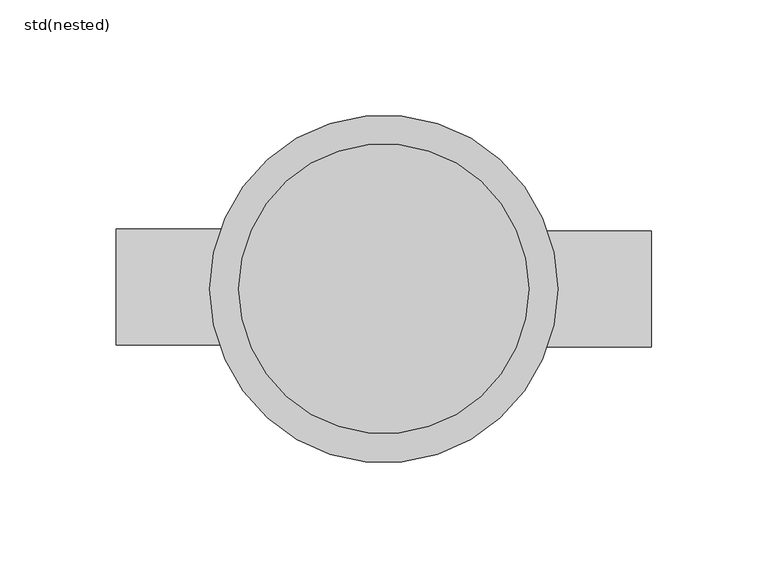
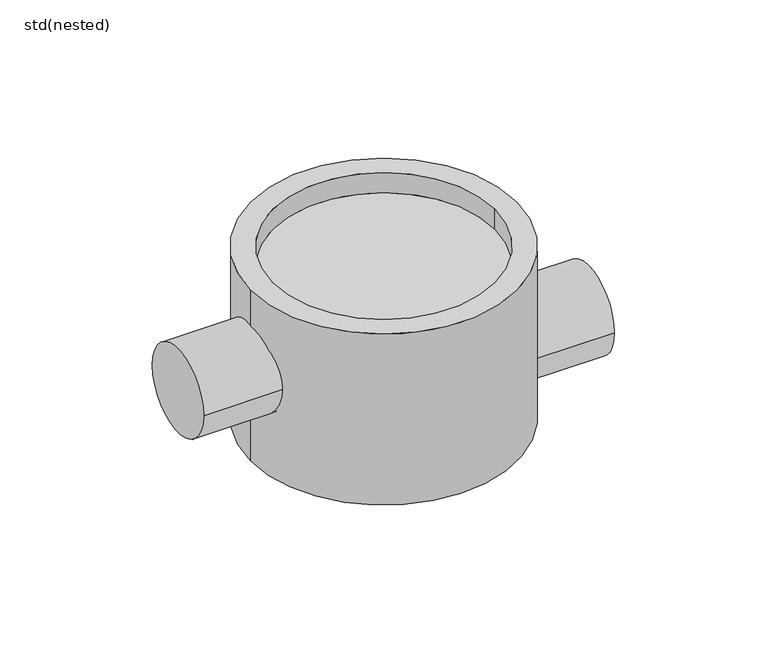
"""IFC4 building model written with IfcOpenShell, lengths in millimetres: pipe fitting geometry, ZZZ_do_not_use_PIF_UN_Gully bodies_With lateral inlet_ACO : std(nested)."""

import ifcopenshell
import ifcopenshell.guid

model = None  # the IFC model being written
_history = None  # IfcOwnerHistory: only IFC2X3 demands one
_inside = {}  # id of a spatial element -> (the spatial element, [elements in it])
_under = {}  # id of a project, library or spatial element -> (it, [spatial elements below it])
_declared = {}  # id of a project -> (the project, [libraries it declares])
_typed = {}  # id of a type object -> (the type object, [elements of that type])
_made_of = {}  # id of a material, layer set ... -> (it, [elements and type objects made of it])


def new_model(schema):
    """Start an empty IFC model of exactly this schema.

    Asked for "IFC4X3", IfcOpenShell would pick the latest addendum, in which some entities
    have other attributes; the version numbers below select the first issue.
    IFC2X3 requires an IfcOwnerHistory on every rooted entity: one is made here for all.
    """
    global model, _history
    if schema == "IFC4X3":
        model = ifcopenshell.file(schema_version=(4, 3, 0, 0))
    else:
        model = ifcopenshell.file(schema=schema)
    _inside.clear()
    _under.clear()
    _declared.clear()
    _typed.clear()
    _made_of.clear()
    _history = None
    if model.schema == "IFC2X3":
        org = make("IfcOrganization", Name="unknown")
        user = make(
            "IfcPersonAndOrganization",
            ThePerson=make("IfcPerson", FamilyName="unknown"),
            TheOrganization=org,
        )
        app = make(
            "IfcApplication",
            ApplicationDeveloper=org,
            Version="unknown",
            ApplicationFullName="unknown",
            ApplicationIdentifier="unknown",
        )
        _history = make(
            "IfcOwnerHistory",
            OwningUser=user,
            OwningApplication=app,
            ChangeAction="ADDED",
            CreationDate=0,
        )
    return model


def make(cls, **values):
    """One entity of the class cls with the attributes given. An attribute that is None is left unset."""
    return model.create_entity(
        cls, **{name: value for name, value in values.items() if value is not None}
    )


def rooted(cls, **values):
    """An entity with a GlobalId (a new one), such as an element, a storey or a relation."""
    return make(cls, GlobalId=ifcopenshell.guid.new(), OwnerHistory=_history, **values)


def si_unit(unit_type, name, prefix=None):
    """IfcSIUnit, for example si_unit("LENGTHUNIT", "METRE", prefix="MILLI")."""
    return make("IfcSIUnit", UnitType=unit_type, Prefix=prefix, Name=name)


def assignment(units):
    """IfcUnitAssignment: the units of a project."""
    return None if units is None else make("IfcUnitAssignment", Units=units)


def point(xyz):
    """IfcCartesianPoint."""
    return None if xyz is None else make("IfcCartesianPoint", Coordinates=xyz)


def direction(xyz):
    """IfcDirection."""
    return None if xyz is None else make("IfcDirection", DirectionRatios=xyz)


def frame(location, z_axis=None, x_axis=None):
    """IfcAxis2Placement3D, a coordinate frame: its origin and axes. An axis left out is left unset."""
    return make(
        "IfcAxis2Placement3D",
        Location=point(location),
        Axis=direction(z_axis),
        RefDirection=direction(x_axis),
    )


def frame_2d(location, x_axis=None):
    """IfcAxis2Placement2D, a coordinate frame in the plane: its origin and x axis."""
    return make(
        "IfcAxis2Placement2D", Location=point(location), RefDirection=direction(x_axis)
    )


def origin():
    """The frame at (0, 0, 0) with its axes left unset."""
    return frame((0.0, 0.0, 0.0))


def place(relative_to, where):
    """IfcLocalPlacement: puts the frame where relative to a parent placement (None: the world)."""
    return make(
        "IfcLocalPlacement", PlacementRelTo=relative_to, RelativePlacement=where
    )


def context(
    kind, dimensions, precision=None, world=None, true_north=None, identifier=None
):
    """IfcGeometricRepresentationContext, for example the 3D "Model" context."""
    return make(
        "IfcGeometricRepresentationContext",
        ContextIdentifier=identifier,
        ContextType=kind,
        CoordinateSpaceDimension=dimensions,
        Precision=precision,
        WorldCoordinateSystem=world,
        TrueNorth=true_north,
    )


def project(units=None, contexts=None):
    """IfcProject with its units and contexts."""
    return rooted(
        "IfcProject",
        Name="project",
        RepresentationContexts=contexts,
        UnitsInContext=assignment(units),
    )


def spatial(cls, under=None, at=None, **own):
    """A site, building, storey or space (cls), placed at a placement, below another one or the project."""
    s = rooted(cls, ObjectPlacement=at, **own)
    if under is not None:
        _under.setdefault(under.id(), (under, []))[1].append(s)
    return s


def polyline(points):
    """IfcPolyline through the points."""
    return make("IfcPolyline", Points=[point(p) for p in points])


def circle_curve(where, radius):
    """IfcCircle in the frame where."""
    return make("IfcCircle", Position=where, Radius=radius)


def trimmed(basis, trim1, trim2, sense, master):
    """IfcTrimmedCurve: the piece of a basis curve between two trims."""
    return make(
        "IfcTrimmedCurve",
        BasisCurve=basis,
        Trim1=trim1,
        Trim2=trim2,
        SenseAgreement=sense,
        MasterRepresentation=master,
    )


def segment(curve, same_sense, transition):
    """IfcCompositeCurveSegment."""
    return make(
        "IfcCompositeCurveSegment",
        Transition=transition,
        SameSense=same_sense,
        ParentCurve=curve,
    )


def composite_curve(segments, self_intersect=None):
    """IfcCompositeCurve: segments joined end to end."""
    return make("IfcCompositeCurve", Segments=segments, SelfIntersect=self_intersect)


def outline(outer, holes=None, kind="AREA"):
    """IfcArbitraryClosedProfileDef: a profile drawn as a closed curve; with holes, ...WithVoids."""
    if holes is None:
        return make("IfcArbitraryClosedProfileDef", ProfileType=kind, OuterCurve=outer)
    return make(
        "IfcArbitraryProfileDefWithVoids",
        ProfileType=kind,
        OuterCurve=outer,
        InnerCurves=holes,
    )


def extrude(swept, where, along, depth):
    """IfcExtrudedAreaSolid: the profile swept, set in the frame where, extruded along a direction by depth."""
    return make(
        "IfcExtrudedAreaSolid",
        SweptArea=swept,
        Position=where,
        ExtrudedDirection=direction(along),
        Depth=depth,
    )


def shape(context_of_items, identifier, shape_type, items):
    """IfcShapeRepresentation: the items that make up one representation, for example the "Body"."""
    return make(
        "IfcShapeRepresentation",
        ContextOfItems=context_of_items,
        RepresentationIdentifier=identifier,
        RepresentationType=shape_type,
        Items=items,
    )


def source(mapping_origin, context_of_items, identifier, shape_type, items):
    """IfcRepresentationMap: a shape defined once, which mapped items show again and again."""
    return make(
        "IfcRepresentationMap",
        MappingOrigin=mapping_origin,
        MappedRepresentation=shape(context_of_items, identifier, shape_type, items),
    )


def transform(
    local_origin,
    x_axis=None,
    y_axis=None,
    z_axis=None,
    scale=None,
    scale2=None,
    scale3=None,
    uniform=True,
):
    """IfcCartesianTransformationOperator3D, or its non-uniform kind. x_axis, y_axis, z_axis: its Axis1, 2, 3."""
    if uniform:
        return make(
            "IfcCartesianTransformationOperator3D",
            Axis1=direction(x_axis),
            Axis2=direction(y_axis),
            LocalOrigin=point(local_origin),
            Scale=scale,
            Axis3=direction(z_axis),
        )
    return make(
        "IfcCartesianTransformationOperator3DnonUniform",
        Axis1=direction(x_axis),
        Axis2=direction(y_axis),
        LocalOrigin=point(local_origin),
        Scale=scale,
        Axis3=direction(z_axis),
        Scale2=scale2,
        Scale3=scale3,
    )


def mapped(mapping_source, mapping_target):
    """IfcMappedItem: shows the shape of a source again, moved by a transform."""
    return make(
        "IfcMappedItem", MappingSource=mapping_source, MappingTarget=mapping_target
    )


def made_of(thing, what):
    """Note that an element or type object is made of a material, layer set ...; save() writes the relation."""
    if what is not None:
        _made_of.setdefault(what.id(), (what, []))[1].append(thing)
    return thing


def element(
    cls,
    number,
    at=None,
    inside=None,
    cuts=None,
    type_object=None,
    material=None,
    context=None,
    identifier="Body",
    shape_type=None,
    held_by="IfcProductDefinitionShape",
    body=None,
    shapes=None,
    **own,
):
    """One element of the class cls, such as IfcWall. Its Tag is "e" and its number.

    at: its placement. inside: the storey or other place that contains it. cuts: it is an
    opening in that element (IfcRelVoidsElement). A single representation is given by context,
    identifier, shape_type and body (its items); several are given by shapes. held_by: the class
    of the entity that holds the representations. save() writes the other relations.
    """
    e = rooted(cls, Tag="e%d" % number, ObjectPlacement=at, **own)
    if body is not None:
        shapes = [shape(context, identifier, shape_type, body)]
    if shapes is not None:
        e.Representation = make(held_by, Representations=shapes)
    if inside is not None:
        _inside.setdefault(inside.id(), (inside, []))[1].append(e)
    if cuts is not None:
        rooted(
            "IfcRelVoidsElement", RelatingBuildingElement=cuts, RelatedOpeningElement=e
        )
    if type_object is not None:
        _typed.setdefault(type_object.id(), (type_object, []))[1].append(e)
    return made_of(e, material)


def aggregate(whole, parts):
    """IfcRelAggregates: a whole, such as a stair, and the parts it consists of."""
    return rooted("IfcRelAggregates", RelatingObject=whole, RelatedObjects=parts)


def save(model, path):
    """Write the relations noted so far, then the file.

    IfcRelAggregates (storeys below a building ...), IfcRelContainedInSpatialStructure (elements
    in a storey), IfcRelDefinesByType, IfcRelAssociatesMaterial and IfcRelDeclares: one each for
    every whole, place, type object, material and project.
    """
    for whole, parts in _under.values():
        aggregate(whole, parts)
    for where, things in _inside.values():
        rooted(
            "IfcRelContainedInSpatialStructure",
            RelatedElements=things,
            RelatingStructure=where,
        )
    for kind, things in _typed.values():
        rooted("IfcRelDefinesByType", RelatedObjects=things, RelatingType=kind)
    for what, things in _made_of.values():
        rooted("IfcRelAssociatesMaterial", RelatedObjects=things, RelatingMaterial=what)
    for by, libraries in _declared.values():
        rooted("IfcRelDeclares", RelatingContext=by, RelatedDefinitions=libraries)
    model.write(path)


def plane_surface(at):
    """IfcPlane: the flat surface through the origin of the frame at, square to its z axis."""
    return make("IfcPlane", Position=at)


def cylinder_surface(at, radius):
    """IfcCylindricalSurface: all points at the distance radius from the z axis of the frame at."""
    return make("IfcCylindricalSurface", Position=at, Radius=radius)


def revolved_surface(curve, axis_point, axis_direction):
    """IfcSurfaceOfRevolution: the curve turned about the line through axis_point along axis_direction."""
    return make(
        "IfcSurfaceOfRevolution",
        SweptCurve=make("IfcArbitraryOpenProfileDef", ProfileType="CURVE", Curve=curve),
        AxisPosition=make("IfcAxis1Placement", Location=point(axis_point), Axis=direction(axis_direction)),
    )


def advanced_brep(points, edges, surfaces, faces):
    """IfcAdvancedBrep: a solid bounded by faces that lie on surfaces and meet in shared edges.

    An edge is (start, end): straight between two places in points (the first is 0);
    or (start, end, curve); or (start, end, curve, False) where it runs against its curve.
    A face is (place in surfaces, loops), or (place, loops, False) where it looks against
    its surface's normal. A loop lists edges by number (the first is 1), with a minus sign
    where the edge is run from its end to its start. The first loop is the outer one.
    """
    corners = [point(p) for p in points]
    vertices = [make("IfcVertexPoint", VertexGeometry=c) for c in corners]
    made = []
    for start, end, *more in edges:
        made.append(
            make(
                "IfcEdgeCurve",
                EdgeStart=vertices[start],
                EdgeEnd=vertices[end],
                EdgeGeometry=more[0] if more else make("IfcPolyline", Points=[corners[start], corners[end]]),
                SameSense=more[1] if len(more) > 1 else True,
            )
        )
    hull = []
    for where, loops, *sense in faces:
        bounds = []
        for j, loop in enumerate(loops):
            ring = [make("IfcOrientedEdge", EdgeElement=made[abs(k) - 1], Orientation=k > 0) for k in loop]
            bounds.append(
                make(
                    "IfcFaceOuterBound" if j == 0 else "IfcFaceBound",
                    Bound=make("IfcEdgeLoop", EdgeList=ring),
                    Orientation=True,
                )
            )
        hull.append(make("IfcAdvancedFace", Bounds=bounds, FaceSurface=surfaces[where], SameSense=sense[0] if sense else True))
    return make("IfcAdvancedBrep", Outer=make("IfcClosedShell", CfsFaces=hull))


def std_nested_ba2fb492(model_context):
    return source(origin(), model_context, "Body", "SolidModel", [
        extrude(outline(composite_curve([segment(trimmed(circle_curve(frame_2d((0.0, -215.0)), 25.0), [point((-25.0, -215.0))], [point((25.0, -215.0))], False, "CARTESIAN"), True, "CONTINUOUS"), segment(trimmed(circle_curve(frame_2d((0.0, -215.0)), 25.0), [point((25.0, -215.0))], [point((-25.0, -215.0))], False, "CARTESIAN"), True, "CONTINUOUS")], self_intersect=False)), frame((70.0, 0.0, 0.0), z_axis=(1.0, 0.0, 0.0), x_axis=(0.0, 1.0, 0.0)), (0.0, 0.0, 1.0), 45.5),
        advanced_brep(
        [(-75.0, 0.0, -138.0), (75.0, 0.0, -138.0), (62.5, 0.0, -138.0), (-62.5, 0.0, -138.0), (-75.0, 0.0, -240.0), (75.0, 0.0, -240.0), (-62.5, 0.0, -150.0), (62.5, 0.0, -150.0)],
        [
            (0, 1, circle_curve(frame((0.0, 0.0, -138.0), z_axis=(0.0, 0.0, 1.0), x_axis=(1.0, 0.0, 0.0)), 75.0)),
            (1, 0, circle_curve(frame((0.0, 0.0, -138.0), z_axis=(0.0, 0.0, 1.0), x_axis=(1.0, 0.0, 0.0)), 75.0)),
            (2, 3, circle_curve(frame((0.0, 0.0, -138.0), z_axis=(0.0, 0.0, -1.0), x_axis=(1.0, 0.0, 0.0)), 62.5)),
            (3, 2, circle_curve(frame((0.0, 0.0, -138.0), z_axis=(0.0, 0.0, -1.0), x_axis=(1.0, 0.0, 0.0)), 62.5)),
            (4, 5, circle_curve(frame((0.0, 0.0, -240.0), z_axis=(0.0, 0.0, -1.0), x_axis=(1.0, 0.0, 0.0)), 75.0)),
            (5, 4, circle_curve(frame((0.0, 0.0, -240.0), z_axis=(0.0, 0.0, -1.0), x_axis=(1.0, 0.0, 0.0)), 75.0)),
            (0, 4),
            (5, 1),
            (6, 7, circle_curve(frame((0.0, 0.0, -150.0), z_axis=(0.0, 0.0, 1.0), x_axis=(1.0, 0.0, 0.0)), 62.5)),
            (7, 6, circle_curve(frame((0.0, 0.0, -150.0), z_axis=(0.0, 0.0, 1.0), x_axis=(1.0, 0.0, 0.0)), 62.5)),
            (6, 3),
            (2, 7),
        ],
        [
            plane_surface(frame((75.0, 0.0, -138.0), z_axis=(0.0, 0.0, 1.0), x_axis=(0.0, 1.0, 0.0))),
            plane_surface(frame((75.0, 0.0, -240.0), z_axis=(0.0, 0.0, -1.0), x_axis=(0.0, -1.0, 0.0))),
            cylinder_surface(frame((0.0, 0.0, -240.0), z_axis=(0.0, 0.0, 1.0), x_axis=(1.0, 0.0, 0.0)), 75.0),
            plane_surface(frame((62.5, 0.0, -150.0), z_axis=(0.0, 0.0, 1.0), x_axis=(0.0, -1.0, 0.0))),
            revolved_surface(polyline([(62.5, 0.0, -138.0), (62.5, 0.0, -150.0)]), (0.0, 0.0, -150.0), (0.0, 0.0, 1.0)),
        ],
        [
            (0, [[1, 2], [3, 4]]),
            (1, [[5, 6]]),
            (2, [[-1, 7, -6, 8]]),
            (2, [[-2, -8, -5, -7]]),
            (3, [[9, 10]]),
            (4, [[-9, 11, -3, 12]]),
            (4, [[-10, -12, -4, -11]]),
        ],
    ),
        extrude(outline(composite_curve([segment(trimmed(circle_curve(frame_2d((0.8046596, -184.1317353)), 25.0), [point((-24.1953404, -184.1317353))], [point((25.8046596, -184.1317353))], False, "CARTESIAN"), True, "CONTINUOUS"), segment(trimmed(circle_curve(frame_2d((0.8046596, -184.1317353)), 25.0), [point((25.8046596, -184.1317353))], [point((-24.1953404, -184.1317353))], False, "CARTESIAN"), True, "CONTINUOUS")], self_intersect=False)), frame((-115.5, 0.0, 0.0), z_axis=(1.0, 0.0, 0.0), x_axis=(0.0, 1.0, 0.0)), (0.0, 0.0, 1.0), 45.5),
    ])


if __name__ == "__main__":
    model = new_model("IFC4")
    model_context = context("Model", 3, world=origin())
    ifc_project = project(units=[si_unit("LENGTHUNIT", "METRE", prefix="MILLI")], contexts=[model_context])
    site = spatial("IfcSite", under=ifc_project)
    building = spatial("IfcBuilding", under=site)
    placement = place(None, origin())
    std_nested_shape = std_nested_ba2fb492(model_context)
    element("IfcPipeFitting", 1, ObjectType="ZZZ_do_not_use_PIF_UN_Gully bodies_With lateral inlet_ACO : std(nested)", at=placement, inside=building, context=model_context, shape_type="MappedRepresentation", body=[
        mapped(std_nested_shape, transform((0.0, 0.0, 0.0), x_axis=(1.0, 0.0, 0.0), y_axis=(0.0, 1.0, 0.0), z_axis=(0.0, 0.0, 1.0))),
    ])
    save(model, "model.ifc")
